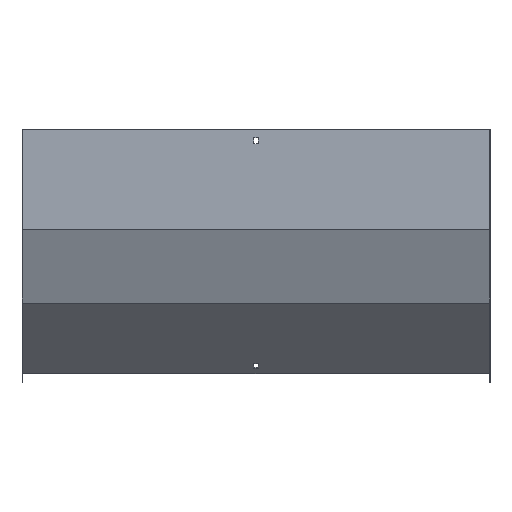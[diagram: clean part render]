
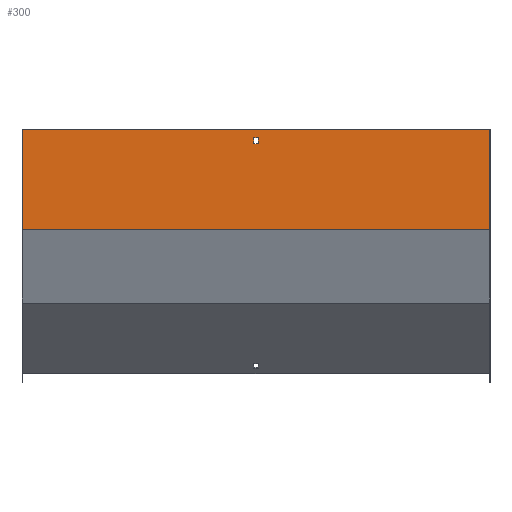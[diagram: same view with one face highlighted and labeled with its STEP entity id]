
A CAD part, front view. The second image highlights one B-rep face of the part: STEP entity #300.
In plain terms, the highlighted planar face has unit normal (0, -1, 0).
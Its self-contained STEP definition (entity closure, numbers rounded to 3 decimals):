
#37 = VECTOR ( 'NONE', #566, 1000. ) ;
#49 = ORIENTED_EDGE ( 'NONE', *, *, #214, .F. ) ;
#59 = CARTESIAN_POINT ( 'NONE',  ( 350., -1.5, 0. ) ) ;
#61 = LINE ( 'NONE', #647, #821 ) ;
#62 = VERTEX_POINT ( 'NONE', #483 ) ;
#79 = CARTESIAN_POINT ( 'NONE',  ( -350., -1.5, 0. ) ) ;
#86 = ORIENTED_EDGE ( 'NONE', *, *, #447, .F. ) ;
#105 = LINE ( 'NONE', #238, #643 ) ;
#116 = ORIENTED_EDGE ( 'NONE', *, *, #672, .F. ) ;
#162 = ORIENTED_EDGE ( 'NONE', *, *, #664, .T. ) ;
#170 = LINE ( 'NONE', #626, #37 ) ;
#187 = CARTESIAN_POINT ( 'NONE',  ( 350., -1.5, -150.098 ) ) ;
#197 = EDGE_CURVE ( 'NONE', #726, #225, #691, .T. ) ;
#214 = EDGE_CURVE ( 'NONE', #291, #427, #737, .T. ) ;
#225 = VERTEX_POINT ( 'NONE', #535 ) ;
#231 = CARTESIAN_POINT ( 'NONE',  ( -350., -1.5, 0. ) ) ;
#238 = CARTESIAN_POINT ( 'NONE',  ( -3.25, -1.5, 0. ) ) ;
#257 = DIRECTION ( 'NONE',  ( 0., 1., 0. ) ) ;
#266 = FACE_BOUND ( 'NONE', #742, .T. ) ;
#291 = VERTEX_POINT ( 'NONE', #59 ) ;
#298 = VECTOR ( 'NONE', #839, 1000. ) ;
#300 = ADVANCED_FACE ( 'NONE', ( #402, #266 ), #649, .F. ) ;
#311 = DIRECTION ( 'NONE',  ( -1., 0., 0. ) ) ;
#323 = LINE ( 'NONE', #767, #298 ) ;
#329 = DIRECTION ( 'NONE',  ( 1., 0., 0. ) ) ;
#334 = VERTEX_POINT ( 'NONE', #783 ) ;
#343 = ORIENTED_EDGE ( 'NONE', *, *, #197, .T. ) ;
#372 = CARTESIAN_POINT ( 'NONE',  ( 3.25, -1.5, -12. ) ) ;
#378 = VECTOR ( 'NONE', #311, 1000. ) ;
#379 = DIRECTION ( 'NONE',  ( 0., 0., -1. ) ) ;
#390 = LINE ( 'NONE', #404, #755 ) ;
#402 = FACE_OUTER_BOUND ( 'NONE', #673, .T. ) ;
#404 = CARTESIAN_POINT ( 'NONE',  ( 351.5, -1.5, 0. ) ) ;
#408 = DIRECTION ( 'NONE',  ( 0., 0., 1. ) ) ;
#409 = CARTESIAN_POINT ( 'NONE',  ( 350., -1.5, 0. ) ) ;
#427 = VERTEX_POINT ( 'NONE', #187 ) ;
#447 = EDGE_CURVE ( 'NONE', #334, #795, #170, .T. ) ;
#449 = ORIENTED_EDGE ( 'NONE', *, *, #515, .F. ) ;
#454 = LINE ( 'NONE', #705, #378 ) ;
#466 = VERTEX_POINT ( 'NONE', #563 ) ;
#471 = EDGE_CURVE ( 'NONE', #62, #466, #105, .T. ) ;
#474 = DIRECTION ( 'NONE',  ( 0., 0., -1. ) ) ;
#483 = CARTESIAN_POINT ( 'NONE',  ( -3.25, -1.5, -12. ) ) ;
#503 = EDGE_CURVE ( 'NONE', #795, #62, #454, .T. ) ;
#513 = ORIENTED_EDGE ( 'NONE', *, *, #503, .F. ) ;
#515 = EDGE_CURVE ( 'NONE', #427, #225, #323, .T. ) ;
#532 = VECTOR ( 'NONE', #474, 1000. ) ;
#535 = CARTESIAN_POINT ( 'NONE',  ( -350., -1.5, -150.098 ) ) ;
#563 = CARTESIAN_POINT ( 'NONE',  ( -3.25, -1.5, -21. ) ) ;
#566 = DIRECTION ( 'NONE',  ( 0., 0., 1. ) ) ;
#626 = CARTESIAN_POINT ( 'NONE',  ( 3.25, -1.5, 0. ) ) ;
#637 = AXIS2_PLACEMENT_3D ( 'NONE', #779, #257, #408 ) ;
#643 = VECTOR ( 'NONE', #379, 1000. ) ;
#647 = CARTESIAN_POINT ( 'NONE',  ( 351.5, -1.5, -21. ) ) ;
#649 = PLANE ( 'NONE',  #637 ) ;
#664 = EDGE_CURVE ( 'NONE', #291, #726, #390, .T. ) ;
#672 = EDGE_CURVE ( 'NONE', #466, #334, #61, .T. ) ;
#673 = EDGE_LOOP ( 'NONE', ( #343, #449, #49, #162 ) ) ;
#691 = LINE ( 'NONE', #79, #819 ) ;
#705 = CARTESIAN_POINT ( 'NONE',  ( 351.5, -1.5, -12. ) ) ;
#723 = DIRECTION ( 'NONE',  ( -1., 0., 0. ) ) ;
#724 = ORIENTED_EDGE ( 'NONE', *, *, #471, .F. ) ;
#726 = VERTEX_POINT ( 'NONE', #231 ) ;
#737 = LINE ( 'NONE', #409, #532 ) ;
#742 = EDGE_LOOP ( 'NONE', ( #86, #116, #724, #513 ) ) ;
#755 = VECTOR ( 'NONE', #723, 1000. ) ;
#767 = CARTESIAN_POINT ( 'NONE',  ( 351.5, -1.5, -150.098 ) ) ;
#779 = CARTESIAN_POINT ( 'NONE',  ( 351.5, -1.5, 0. ) ) ;
#783 = CARTESIAN_POINT ( 'NONE',  ( 3.25, -1.5, -21. ) ) ;
#793 = DIRECTION ( 'NONE',  ( 0., 0., -1. ) ) ;
#795 = VERTEX_POINT ( 'NONE', #372 ) ;
#819 = VECTOR ( 'NONE', #793, 1000. ) ;
#821 = VECTOR ( 'NONE', #329, 1000. ) ;
#839 = DIRECTION ( 'NONE',  ( -1., 0., 0. ) ) ;
